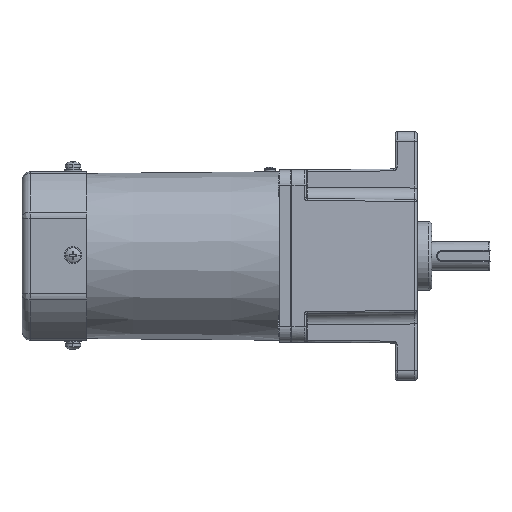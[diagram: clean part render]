
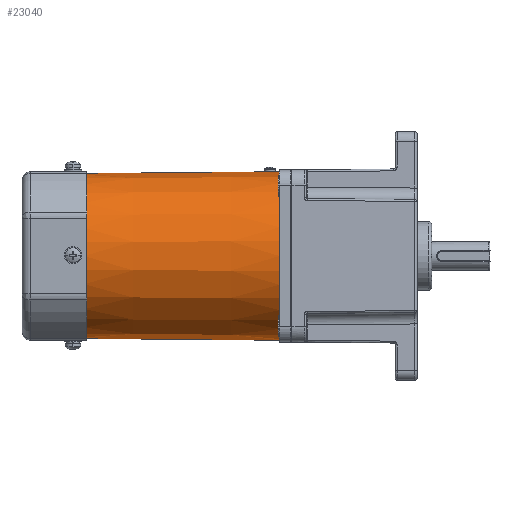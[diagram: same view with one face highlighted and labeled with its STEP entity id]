
A CAD part, front view. The second image highlights one B-rep face of the part: STEP entity #23040.
In plain terms, the highlighted conical face has half-angle 0.503 degrees and reference radius 43.236 mm.
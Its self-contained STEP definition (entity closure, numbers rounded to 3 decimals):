
#127 = ORIENTED_EDGE ( 'NONE', *, *, #2693, .F. ) ;
#1531 = EDGE_CURVE ( 'NONE', #30184, #31139, #13289, .T. ) ;
#2590 = AXIS2_PLACEMENT_3D ( 'NONE', #13715, #10681, #13500 ) ;
#2656 = LINE ( 'NONE', #8900, #20935 ) ;
#2693 = EDGE_CURVE ( 'NONE', #32757, #30184, #7377, .T. ) ;
#4136 = ORIENTED_EDGE ( 'NONE', *, *, #27295, .T. ) ;
#4524 = AXIS2_PLACEMENT_3D ( 'NONE', #32697, #38932, #41933 ) ;
#7377 = CIRCLE ( 'NONE', #2590, 43.105 ) ;
#8900 = CARTESIAN_POINT ( 'NONE',  ( -2365.797, -775.157, 0. ) ) ;
#9313 = FACE_OUTER_BOUND ( 'NONE', #22948, .T. ) ;
#10107 = ORIENTED_EDGE ( 'NONE', *, *, #1531, .F. ) ;
#10681 = DIRECTION ( 'NONE',  ( -1., 0., 0. ) ) ;
#10792 = AXIS2_PLACEMENT_3D ( 'NONE', #21966, #31841, #35068 ) ;
#12855 = EDGE_CURVE ( 'NONE', #32757, #26031, #35908, .T. ) ;
#13289 = LINE ( 'NONE', #26341, #41807 ) ;
#13421 = CARTESIAN_POINT ( 'NONE',  ( 2545.293, -775.157, -43.105 ) ) ;
#13500 = DIRECTION ( 'NONE',  ( 0., 0., 1. ) ) ;
#13550 = CONICAL_SURFACE ( 'NONE', #10792, 43.236, 0.009 ) ;
#13715 = CARTESIAN_POINT ( 'NONE',  ( 2545.293, -775.157, 0. ) ) ;
#14455 = CARTESIAN_POINT ( 'NONE',  ( 2647.292, -775.157, -44. ) ) ;
#17454 = VERTEX_POINT ( 'NONE', #41045 ) ;
#18663 = ORIENTED_EDGE ( 'NONE', *, *, #12855, .T. ) ;
#20124 = CARTESIAN_POINT ( 'NONE',  ( 2545.293, -775.157, 43.105 ) ) ;
#20935 = VECTOR ( 'NONE', #41901, 1000. ) ;
#21966 = CARTESIAN_POINT ( 'NONE',  ( 2560.293, -775.157, 0. ) ) ;
#22795 = DIRECTION ( 'NONE',  ( 1., 0., -0.009 ) ) ;
#22948 = EDGE_LOOP ( 'NONE', ( #10107, #127, #18663, #28515, #4136 ) ) ;
#23040 = ADVANCED_FACE ( 'NONE', ( #9313 ), #13550, .T. ) ;
#25135 = VECTOR ( 'NONE', #22795, 1000. ) ;
#26031 = VERTEX_POINT ( 'NONE', #14455 ) ;
#26341 = CARTESIAN_POINT ( 'NONE',  ( 2560.293, -775.157, 43.236 ) ) ;
#26562 = DIRECTION ( 'NONE',  ( 1., 0., 0.009 ) ) ;
#27246 = CARTESIAN_POINT ( 'NONE',  ( 2560.293, -775.157, -43.236 ) ) ;
#27295 = EDGE_CURVE ( 'NONE', #17454, #31139, #2656, .T. ) ;
#28515 = ORIENTED_EDGE ( 'NONE', *, *, #40135, .T. ) ;
#30184 = VERTEX_POINT ( 'NONE', #20124 ) ;
#31139 = VERTEX_POINT ( 'NONE', #32540 ) ;
#31841 = DIRECTION ( 'NONE',  ( 1., 0., 0. ) ) ;
#32540 = CARTESIAN_POINT ( 'NONE',  ( 2637.292, -775.157, 43.912 ) ) ;
#32697 = CARTESIAN_POINT ( 'NONE',  ( 2647.292, -775.157, 0. ) ) ;
#32757 = VERTEX_POINT ( 'NONE', #13421 ) ;
#35068 = DIRECTION ( 'NONE',  ( 0., 0., -1. ) ) ;
#35908 = LINE ( 'NONE', #27246, #25135 ) ;
#38932 = DIRECTION ( 'NONE',  ( -1., 0., 0. ) ) ;
#40135 = EDGE_CURVE ( 'NONE', #26031, #17454, #40169, .T. ) ;
#40169 = CIRCLE ( 'NONE', #4524, 44. ) ;
#41045 = CARTESIAN_POINT ( 'NONE',  ( 2647.292, -775.157, 44. ) ) ;
#41807 = VECTOR ( 'NONE', #26562, 1000. ) ;
#41901 = DIRECTION ( 'NONE',  ( -1., 0., -0.009 ) ) ;
#41933 = DIRECTION ( 'NONE',  ( 0., 0., -1. ) ) ;
